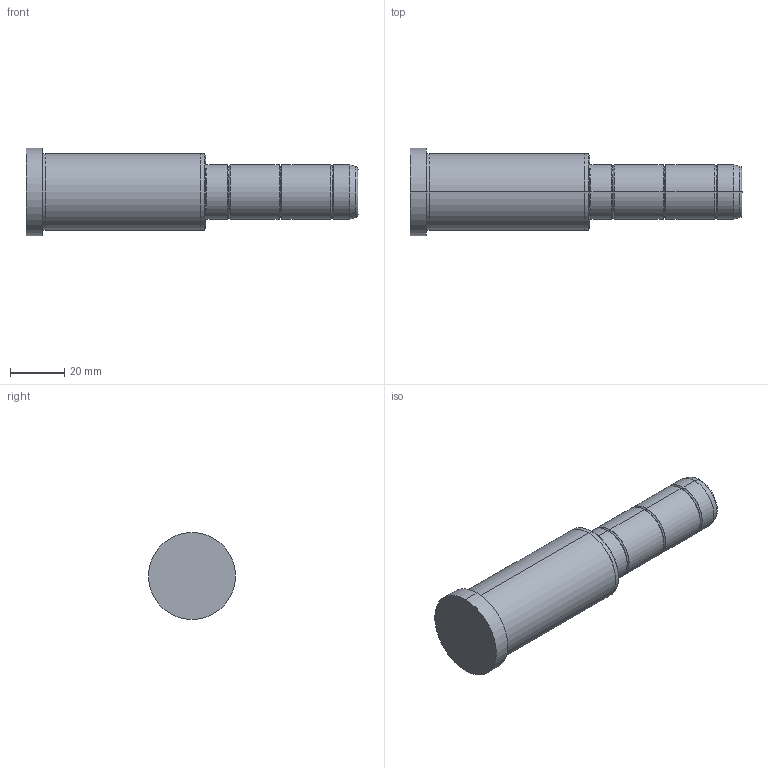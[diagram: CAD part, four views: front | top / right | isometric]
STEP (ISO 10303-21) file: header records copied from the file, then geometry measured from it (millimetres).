
FILE_DESCRIPTION( ( 'STEP AP203' ), '1' );
FILE_NAME( 'C:/Projects/D02 - 20x66x56.step', '2003-01-04T13:52:49', ( ' ' ), ( ' ' ), 'XStep 1.0', ' ', ' ' );
FILE_SCHEMA( ( 'CONFIG_CONTROL_DESIGN' ) );
Length unit declared in the file: metre
Products named in the file (1): 1
Bounding box: 122 x 32 x 32 mm (x, y, z)
Volume: 59253.6 mm3; surface area: 11009.2 mm2
Topology: 1 solids, 1 shells, 42 faces, 82 edges, 46 vertices
Faces by surface type: bspline 22, revolution 20
Entity records: 1325 total; most frequent: CARTESIAN_POINT 517, ORIENTED_EDGE 164, DIRECTION 134, EDGE_CURVE 82, AXIS2_PLACEMENT_3D 47, EDGE_LOOP 46, VERTEX_POINT 46, CIRCLE 46
